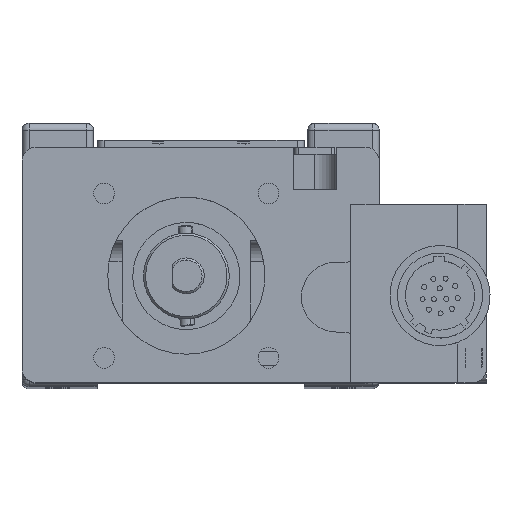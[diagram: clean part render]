
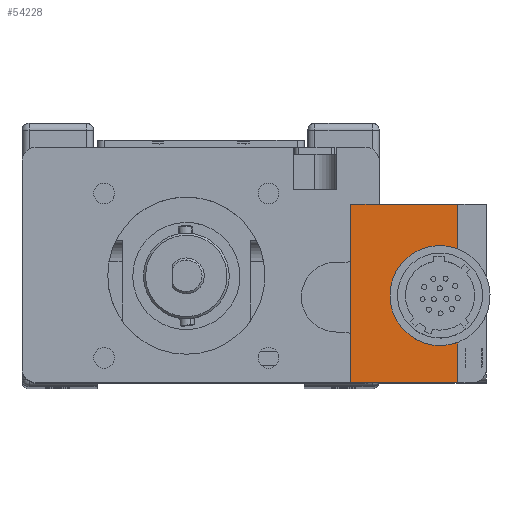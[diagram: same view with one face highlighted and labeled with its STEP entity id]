
A CAD part, top view. The second image highlights one B-rep face of the part: STEP entity #54228.
In plain terms, the highlighted planar face has unit normal (0, 0, 1).
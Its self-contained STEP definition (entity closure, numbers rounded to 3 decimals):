
#3216 = VECTOR ( 'NONE', #38927, 1000. ) ;
#5114 = CARTESIAN_POINT ( 'NONE',  ( 38., 25.5, 198. ) ) ;
#6933 = LINE ( 'NONE', #21395, #147508 ) ;
#6976 = DIRECTION ( 'NONE',  ( -1., 0., 0. ) ) ;
#10803 = DIRECTION ( 'NONE',  ( 0., 0., -1. ) ) ;
#11421 = EDGE_LOOP ( 'NONE', ( #188113, #154943, #27044, #188763, #69646, #111145, #58941, #32725, #169596, #183460, #100212 ) ) ;
#12690 = PLANE ( 'NONE',  #141225 ) ;
#15876 = LINE ( 'NONE', #177298, #130630 ) ;
#16664 = EDGE_CURVE ( 'NONE', #182746, #161890, #74200, .T. ) ;
#21395 = CARTESIAN_POINT ( 'NONE',  ( 21., 25.5, 198. ) ) ;
#22173 = EDGE_CURVE ( 'NONE', #36312, #148048, #29610, .T. ) ;
#22402 = CARTESIAN_POINT ( 'NONE',  ( 21., 17.9, 198. ) ) ;
#27044 = ORIENTED_EDGE ( 'NONE', *, *, #68756, .T. ) ;
#27285 = VERTEX_POINT ( 'NONE', #90199 ) ;
#29206 = CARTESIAN_POINT ( 'NONE',  ( 33.5, 12.5, 198. ) ) ;
#29610 = CIRCLE ( 'NONE', #32762, 6.5 ) ;
#30332 = VECTOR ( 'NONE', #183296, 1000. ) ;
#32590 = VECTOR ( 'NONE', #134313, 1000. ) ;
#32725 = ORIENTED_EDGE ( 'NONE', *, *, #123433, .F. ) ;
#32762 = AXIS2_PLACEMENT_3D ( 'NONE', #57372, #53114, #183753 ) ;
#32773 = CARTESIAN_POINT ( 'NONE',  ( 33.5, 12.5, 198. ) ) ;
#34690 = VECTOR ( 'NONE', #158601, 1000. ) ;
#34877 = DIRECTION ( 'NONE',  ( 0., -1., 0. ) ) ;
#36312 = VERTEX_POINT ( 'NONE', #186051 ) ;
#38927 = DIRECTION ( 'NONE',  ( 0., -1., 0. ) ) ;
#43638 = DIRECTION ( 'NONE',  ( 0., 0., 1. ) ) ;
#44418 = CARTESIAN_POINT ( 'NONE',  ( 25., 25.5, 198. ) ) ;
#53114 = DIRECTION ( 'NONE',  ( 0., 0., 1. ) ) ;
#53905 = CARTESIAN_POINT ( 'NONE',  ( 33.5, 19., 198. ) ) ;
#54228 = ADVANCED_FACE ( 'NONE', ( #114579 ), #12690, .F. ) ;
#54684 = EDGE_CURVE ( 'NONE', #176432, #183827, #6933, .T. ) ;
#55228 = CARTESIAN_POINT ( 'NONE',  ( 36., 25.5, 198. ) ) ;
#55959 = EDGE_CURVE ( 'NONE', #177982, #94878, #153936, .T. ) ;
#57372 = CARTESIAN_POINT ( 'NONE',  ( 33.5, 12.5, 198. ) ) ;
#58941 = ORIENTED_EDGE ( 'NONE', *, *, #54684, .T. ) ;
#60972 = VERTEX_POINT ( 'NONE', #116009 ) ;
#64430 = DIRECTION ( 'NONE',  ( 0., 0., 1. ) ) ;
#64804 = AXIS2_PLACEMENT_3D ( 'NONE', #29206, #43638, #87821 ) ;
#68756 = EDGE_CURVE ( 'NONE', #60972, #182746, #121358, .T. ) ;
#69426 = DIRECTION ( 'NONE',  ( 0., 1., 0. ) ) ;
#69646 = ORIENTED_EDGE ( 'NONE', *, *, #116918, .T. ) ;
#72689 = EDGE_CURVE ( 'NONE', #60972, #36312, #111931, .T. ) ;
#74200 = LINE ( 'NONE', #132794, #157685 ) ;
#74493 = DIRECTION ( 'NONE',  ( 0., -1., 0. ) ) ;
#87821 = DIRECTION ( 'NONE',  ( 0., 1., 0. ) ) ;
#90199 = CARTESIAN_POINT ( 'NONE',  ( 36., 0.5, 198. ) ) ;
#94878 = VERTEX_POINT ( 'NONE', #183741 ) ;
#95753 = EDGE_CURVE ( 'NONE', #148048, #177982, #178352, .T. ) ;
#97685 = EDGE_CURVE ( 'NONE', #27285, #94878, #155409, .T. ) ;
#99552 = CARTESIAN_POINT ( 'NONE',  ( 21., 25.5, 198. ) ) ;
#100212 = ORIENTED_EDGE ( 'NONE', *, *, #95753, .F. ) ;
#109378 = CARTESIAN_POINT ( 'NONE',  ( 36., 0.5, 198. ) ) ;
#111145 = ORIENTED_EDGE ( 'NONE', *, *, #121044, .T. ) ;
#111613 = LINE ( 'NONE', #171136, #34690 ) ;
#111931 = LINE ( 'NONE', #55228, #3216 ) ;
#114579 = FACE_OUTER_BOUND ( 'NONE', #11421, .T. ) ;
#116009 = CARTESIAN_POINT ( 'NONE',  ( 36., 25.5, 198. ) ) ;
#116918 = EDGE_CURVE ( 'NONE', #161890, #178502, #111613, .T. ) ;
#117087 = LINE ( 'NONE', #147781, #32590 ) ;
#121044 = EDGE_CURVE ( 'NONE', #178502, #176432, #15876, .T. ) ;
#121358 = LINE ( 'NONE', #5114, #183183 ) ;
#123433 = EDGE_CURVE ( 'NONE', #27285, #183827, #117087, .T. ) ;
#129409 = AXIS2_PLACEMENT_3D ( 'NONE', #32773, #64430, #151833 ) ;
#130630 = VECTOR ( 'NONE', #74493, 1000. ) ;
#131850 = DIRECTION ( 'NONE',  ( -1., 0., 0. ) ) ;
#132794 = CARTESIAN_POINT ( 'NONE',  ( 38., 25.5, 198. ) ) ;
#134313 = DIRECTION ( 'NONE',  ( -1., 0., 0. ) ) ;
#141225 = AXIS2_PLACEMENT_3D ( 'NONE', #142440, #10803, #69426 ) ;
#142440 = CARTESIAN_POINT ( 'NONE',  ( 38., 25.5, 198. ) ) ;
#143746 = CARTESIAN_POINT ( 'NONE',  ( 21., 0.5, 198. ) ) ;
#147508 = VECTOR ( 'NONE', #34877, 1000. ) ;
#147781 = CARTESIAN_POINT ( 'NONE',  ( 38., 0.5, 198. ) ) ;
#148048 = VERTEX_POINT ( 'NONE', #53905 ) ;
#151833 = DIRECTION ( 'NONE',  ( 0., 1., 0. ) ) ;
#153936 = CIRCLE ( 'NONE', #129409, 6.5 ) ;
#154943 = ORIENTED_EDGE ( 'NONE', *, *, #72689, .F. ) ;
#155409 = LINE ( 'NONE', #109378, #30332 ) ;
#157685 = VECTOR ( 'NONE', #131850, 1000. ) ;
#158601 = DIRECTION ( 'NONE',  ( 0., -1., 0. ) ) ;
#161890 = VERTEX_POINT ( 'NONE', #99552 ) ;
#169596 = ORIENTED_EDGE ( 'NONE', *, *, #97685, .T. ) ;
#171136 = CARTESIAN_POINT ( 'NONE',  ( 21., 25.5, 198. ) ) ;
#171435 = CARTESIAN_POINT ( 'NONE',  ( 21., 7.1, 198. ) ) ;
#175499 = CARTESIAN_POINT ( 'NONE',  ( 33.5, 6., 198. ) ) ;
#176432 = VERTEX_POINT ( 'NONE', #171435 ) ;
#177298 = CARTESIAN_POINT ( 'NONE',  ( 21., 25.5, 198. ) ) ;
#177982 = VERTEX_POINT ( 'NONE', #175499 ) ;
#178352 = CIRCLE ( 'NONE', #64804, 6.5 ) ;
#178502 = VERTEX_POINT ( 'NONE', #22402 ) ;
#182746 = VERTEX_POINT ( 'NONE', #44418 ) ;
#183183 = VECTOR ( 'NONE', #6976, 1000. ) ;
#183296 = DIRECTION ( 'NONE',  ( 0., 1., 0. ) ) ;
#183460 = ORIENTED_EDGE ( 'NONE', *, *, #55959, .F. ) ;
#183741 = CARTESIAN_POINT ( 'NONE',  ( 36., 6.5, 198. ) ) ;
#183753 = DIRECTION ( 'NONE',  ( 0., 1., 0. ) ) ;
#183827 = VERTEX_POINT ( 'NONE', #143746 ) ;
#186051 = CARTESIAN_POINT ( 'NONE',  ( 36., 18.5, 198. ) ) ;
#188113 = ORIENTED_EDGE ( 'NONE', *, *, #22173, .F. ) ;
#188763 = ORIENTED_EDGE ( 'NONE', *, *, #16664, .T. ) ;
